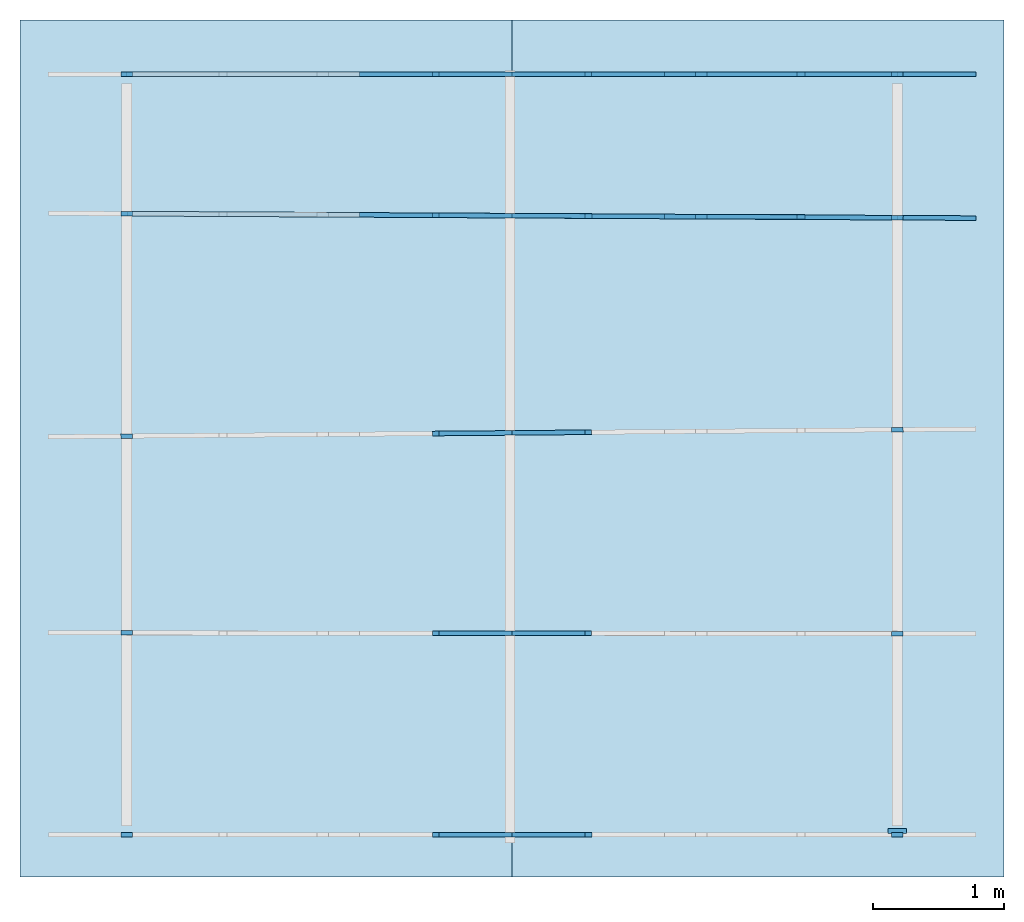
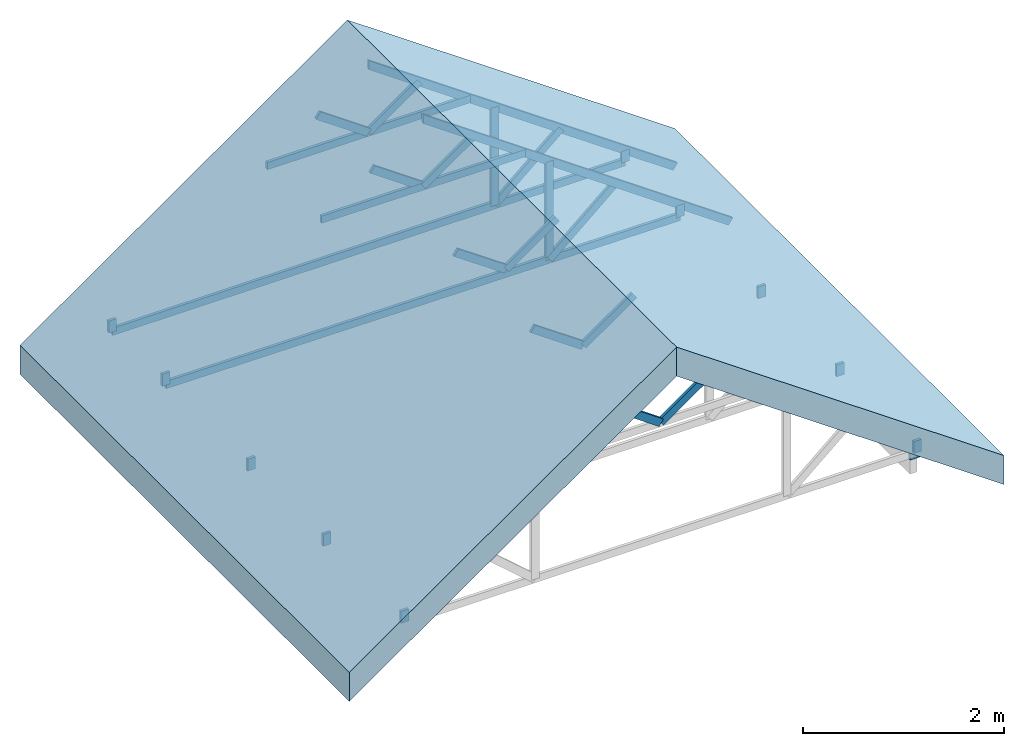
# One storey, part 2 of 2: 30 members, 2 slabs, 1 beam, 6 elements without a shape of their own.
"""IFC2X3 building model written with IfcOpenShell, lengths in metres."""

from ifc_helpers import new_model, entity, si_unit, converted_unit, derived_unit, direction, frame, frame_2d, origin, origin_2d_with_axis, place, context, subcontext, project, spatial, rectangle, extrude, clip, halfspace, source, transform, mapped, material, material_list, layer, layer_set, type_object, type_shapes, element, aggregate, save


model = new_model("IFC2X3")

# Units and contexts
model_context = context("Model", 3, precision=1e-05, world=origin(), true_north=direction((6.123233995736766e-17, 1.0)))
body_context = subcontext(model_context, "Body", "Model", "MODEL_VIEW")
ifc_project = project(units=[si_unit("LENGTHUNIT", "METRE"), si_unit("AREAUNIT", "SQUARE_METRE"), converted_unit("PLANEANGLEUNIT", "DEGREE", entity("IfcPlaneAngleMeasure", 0.017453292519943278), si_unit("PLANEANGLEUNIT", "RADIAN"), dimensions=[0, 0, 0, 0, 0, 0, 0]), derived_unit("THERMALTRANSMITTANCEUNIT", [(si_unit("MASSUNIT", "GRAM", prefix="KILO"), 1), (si_unit("THERMODYNAMICTEMPERATUREUNIT", "KELVIN"), -1), (si_unit("TIMEUNIT", "SECOND"), -3)])], contexts=[model_context])

# Site, building, storey
site_placement = place(None, origin())
site = spatial("IfcSite", under=ifc_project, at=site_placement, Name="Default", CompositionType="ELEMENT")
building_placement = place(site_placement, origin())
building = spatial("IfcBuilding", under=site, at=building_placement, CompositionType="ELEMENT")
storey_placement = place(building_placement, frame((0.0, 0.0, 5.799999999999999)))
storey = spatial("IfcBuildingStorey", under=building, at=storey_placement, Name="Roof", CompositionType="ELEMENT", Elevation=5.799999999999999)

# Beam
ifc_material_1 = material(Name="Softwood, Lumber")
beam_type = type_object("IfcBeamType", Name="M_Truss_Wood Web:35x90", PredefinedType="BEAM")
beam_placement = place(storey_placement, frame((3.3982259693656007, -2.1155999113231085, 0.0)))
element("IfcBeam", 1, at=beam_placement, inside=storey, type_object=beam_type, material=ifc_material_1, Name="M_Truss_Wood Web:35x90", ObjectType="M_Truss_Wood Web:35x90", context=body_context, shape_type="SweptSolid", body=[
    extrude(rectangle(XDim=0.09000000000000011, YDim=0.03499999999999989, at=origin_2d_with_axis()), frame((0.0, 0.0, -0.045000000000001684), z_axis=(1.0, 0.0, 0.0), x_axis=(0.0, 0.0, -1.0)), (0.0, 0.0, 1.0), 0.13970000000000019),
])

# Assembly, members
assembly_1_placement = place(storey_placement, origin())
assembly_1 = element("IfcElementAssembly", 2, at=assembly_1_placement, inside=storey, Name="M_Truss_Common Truss Attic Room 1L+1R_1B:W35_TCH90_VW90_DW90_BCH90", ObjectType="M_Truss_Common Truss Attic Room 1L+1R_1B:W35_TCH90_VW90_DW90_BCH90", AssemblyPlace="NOTDEFINED", PredefinedType="TRUSS")
ifc_material_2 = material(Name="Timber - C20")
member_type_1 = type_object("IfcMemberType", Name="M_Truss_Wood Web:35x90", PredefinedType="BRACE", material=ifc_material_2)
shared_shape_1 = source(origin(), body_context, "Body", "SweptSolid", [
    extrude(rectangle(XDim=0.14506514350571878, YDim=0.035, at=origin_2d_with_axis()), frame((0.0, 0.0, -0.045)), (0.0, 0.0, 1.0), 0.08999999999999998),
])
type_shapes(member_type_1, [shared_shape_1])
member_1_placement = place(assembly_1_placement, frame((-2.421924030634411, 0.9020517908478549, 0.07253257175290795), z_axis=(0.999965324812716, 0.00832761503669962, 0.0), x_axis=(0.0, 0.0, 1.0)))
member_1 = element("IfcMember", 3, at=member_1_placement, type_object=member_type_1, material=ifc_material_2, Name="M_Truss_Wood Web:35x90", ObjectType="M_Truss_Wood Web:35x90", context=body_context, shape_type="MappedRepresentation", body=[
    mapped(shared_shape_1, transform((0.0, 0.0, 0.0), scale=1.0)),
])
member_2_placement = place(assembly_1_placement, frame((3.468075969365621, 0.9511031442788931, 0.07253257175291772), z_axis=(0.999965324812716, 0.00832761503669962, 0.0), x_axis=(0.0, 0.0, 1.0)))
member_2 = element("IfcMember", 4, at=member_2_placement, type_object=member_type_1, material=ifc_material_2, Name="M_Truss_Wood Web:35x90", ObjectType="M_Truss_Wood Web:35x90", context=body_context, shape_type="MappedRepresentation", body=[
    mapped(shared_shape_1, transform((0.0, 0.0, 0.0), scale=1.0)),
])

assembly_2_placement = place(storey_placement, origin())
assembly_2 = element("IfcElementAssembly", 5, at=assembly_2_placement, inside=storey, Name="M_Truss_Common Truss Attic Room 1L+1R_1B:W35_TCH90_VW90_DW90_BCH90", ObjectType="M_Truss_Common Truss Attic Room 1L+1R_1B:W35_TCH90_VW90_DW90_BCH90", AssemblyPlace="NOTDEFINED", PredefinedType="TRUSS")
member_3_placement = place(assembly_2_placement, frame((-2.420924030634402, 2.6020517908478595, 0.07253257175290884), z_axis=(0.9999861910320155, -0.0052552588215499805, 0.0), x_axis=(0.0, 0.0, 1.0)))
member_3 = element("IfcMember", 6, at=member_3_placement, type_object=member_type_1, material=ifc_material_2, Name="M_Truss_Wood Web:35x90", ObjectType="M_Truss_Wood Web:35x90", context=body_context, shape_type="MappedRepresentation", body=[
    mapped(shared_shape_1, transform((0.0, 0.0, 0.0), scale=1.0)),
])
member_4_placement = place(assembly_2_placement, frame((3.468075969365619, 2.5711031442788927, 0.07253257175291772), z_axis=(0.9999861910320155, -0.0052552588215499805, 0.0), x_axis=(0.0, 0.0, 1.0)))
member_4 = element("IfcMember", 7, at=member_4_placement, type_object=member_type_1, material=ifc_material_2, Name="M_Truss_Wood Web:35x90", ObjectType="M_Truss_Wood Web:35x90", context=body_context, shape_type="MappedRepresentation", body=[
    mapped(shared_shape_1, transform((0.0, 0.0, 0.0), scale=1.0)),
])

assembly_3_placement = place(storey_placement, origin())
assembly_3 = element("IfcElementAssembly", 8, at=assembly_3_placement, inside=storey, Name="M_Truss_Common Truss Attic Room 1L+1R_1B:W35_TCH90_VW90_DW90_BCH90", ObjectType="M_Truss_Common Truss Attic Room 1L+1R_1B:W35_TCH90_VW90_DW90_BCH90", AssemblyPlace="NOTDEFINED", PredefinedType="TRUSS")
member_5_placement = place(assembly_3_placement, frame((-2.4219240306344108, 3.6670517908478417, 0.07253257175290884), z_axis=(1.0, 0.0, 0.0), x_axis=(0.0, 0.0, 1.0)))
member_5 = element("IfcMember", 9, at=member_5_placement, type_object=member_type_1, material=ifc_material_2, Name="M_Truss_Wood Web:35x90", ObjectType="M_Truss_Wood Web:35x90", context=body_context, shape_type="MappedRepresentation", body=[
    mapped(shared_shape_1, transform((0.0, 0.0, 0.0), scale=1.0)),
])
member_6_placement = place(assembly_3_placement, frame((3.4680759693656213, 3.6670517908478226, 0.07253257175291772), z_axis=(1.0, 0.0, 0.0), x_axis=(0.0, 0.0, 1.0)))
member_6 = element("IfcMember", 10, at=member_6_placement, type_object=member_type_1, material=ifc_material_2, Name="M_Truss_Wood Web:35x90", ObjectType="M_Truss_Wood Web:35x90", context=body_context, shape_type="MappedRepresentation", body=[
    mapped(shared_shape_1, transform((0.0, 0.0, 0.0), scale=1.0)),
])

assembly_4_placement = place(storey_placement, origin())
assembly_4 = element("IfcElementAssembly", 11, at=assembly_4_placement, inside=storey, Name="M_Truss_Common Truss Attic Room 1L+1R_1B:W35_TCH90_VW90_DW90_BCH90", ObjectType="M_Truss_Common Truss Attic Room 1L+1R_1B:W35_TCH90_VW90_DW90_BCH90", AssemblyPlace="NOTDEFINED", PredefinedType="TRUSS")
member_7_placement = place(assembly_4_placement, frame((-2.4209240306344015, -2.14574991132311, 0.07253257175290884), z_axis=(1.0, 0.0, 0.0), x_axis=(0.0, 0.0, 1.0)))
member_7 = element("IfcMember", 12, at=member_7_placement, type_object=member_type_1, material=ifc_material_2, Name="M_Truss_Wood Web:35x90", ObjectType="M_Truss_Wood Web:35x90", context=body_context, shape_type="MappedRepresentation", body=[
    mapped(shared_shape_1, transform((0.0, 0.0, 0.0), scale=1.0)),
])
member_8_placement = place(assembly_4_placement, frame((3.468075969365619, -2.1457499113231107, 0.07253257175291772), z_axis=(1.0, 0.0, 0.0), x_axis=(0.0, 0.0, 1.0)))
member_8 = element("IfcMember", 13, at=member_8_placement, type_object=member_type_1, material=ifc_material_2, Name="M_Truss_Wood Web:35x90", ObjectType="M_Truss_Wood Web:35x90", context=body_context, shape_type="MappedRepresentation", body=[
    mapped(shared_shape_1, transform((0.0, 0.0, 0.0), scale=1.0)),
])

assembly_5_placement = place(storey_placement, origin())
assembly_5 = element("IfcElementAssembly", 14, at=assembly_5_placement, inside=storey, Name="M_Truss_Common Truss Attic Room 1L+1R_1B:W35_TCH90_VW90_DW90_BCH90", ObjectType="M_Truss_Common Truss Attic Room 1L+1R_1B:W35_TCH90_VW90_DW90_BCH90", AssemblyPlace="NOTDEFINED", PredefinedType="TRUSS")
member_9_placement = place(assembly_5_placement, frame((-2.421924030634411, -0.6017499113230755, 0.07253257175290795), z_axis=(1.0, 0.0, 0.0), x_axis=(0.0, 0.0, 1.0)))
member_9 = element("IfcMember", 15, at=member_9_placement, type_object=member_type_1, material=ifc_material_2, Name="M_Truss_Wood Web:35x90", ObjectType="M_Truss_Wood Web:35x90", context=body_context, shape_type="MappedRepresentation", body=[
    mapped(shared_shape_1, transform((0.0, 0.0, 0.0), scale=1.0)),
])
member_10_placement = place(assembly_5_placement, frame((3.468075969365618, -0.6088968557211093, 0.07253257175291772), z_axis=(1.0, 0.0, 0.0), x_axis=(0.0, 0.0, 1.0)))
member_10 = element("IfcMember", 16, at=member_10_placement, type_object=member_type_1, material=ifc_material_2, Name="M_Truss_Wood Web:35x90", ObjectType="M_Truss_Wood Web:35x90", context=body_context, shape_type="MappedRepresentation", body=[
    mapped(shared_shape_1, transform((0.0, 0.0, 0.0), scale=1.0)),
])

# Member
ifc_material_3 = material(Name="<Unnamed>")
ifc_material_list = material_list([ifc_material_3, ifc_material_2])
member_type_2 = type_object("IfcMemberType", Name="M_Truss_Wood Chord:35x90", PredefinedType="CHORD", material=ifc_material_list)
shared_shape_2 = source(origin(), body_context, "Body", "SweptSolid", [
    clip(extrude(rectangle(XDim=0.09000000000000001, YDim=0.03500000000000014, at=frame_2d((-6.557254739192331e-16, 2.723515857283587e-16), x_axis=(1.0, 0.0))), frame((0.4977653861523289, 2.586713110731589, 8.024927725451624), z_axis=(0.8191407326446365, -0.004304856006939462, -0.573576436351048), x_axis=(-0.5735685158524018, 0.003014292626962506, -0.8191520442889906)), (0.0, 0.0, 1.0), 4.327085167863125), halfspace(frame((0.5235759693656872, 2.5865774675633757, 8.061789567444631), z_axis=(-0.9999861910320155, 0.005255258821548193, 0.0), x_axis=(0.005255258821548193, 0.9999861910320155, 0.0)), False)),
])
type_shapes(member_type_2, [shared_shape_2])
member_11_placement = place(assembly_2_placement, frame((0.0, 0.0, -5.799999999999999)))
member_11 = element("IfcMember", 17, at=member_11_placement, type_object=member_type_2, material=ifc_material_2, Name="M_Truss_Wood Chord:35x90", ObjectType="M_Truss_Wood Chord:35x90", context=body_context, shape_type="MappedRepresentation", body=[
    mapped(shared_shape_2, transform((0.0, 0.0, 0.0), scale=1.0)),
])

member_type_3 = type_object("IfcMemberType", Name="M_Truss_Wood Web:35x90", PredefinedType="BRACE", material=ifc_material_2)
shared_shape_3 = source(origin(), body_context, "Body", "SweptSolid", [
    extrude(rectangle(XDim=1.194032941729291, YDim=0.035, at=origin_2d_with_axis()), frame((0.0, 0.0, -0.045)), (0.0, 0.0, 1.0), 0.08999999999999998),
])
type_shapes(member_type_3, [shared_shape_3])
member_12_placement = place(assembly_2_placement, frame((1.9700153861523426, 2.578975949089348, 0.5970164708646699), z_axis=(0.9999861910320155, -0.0052552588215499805, 0.0), x_axis=(0.0, 0.0, 1.0)))
member_12 = element("IfcMember", 18, at=member_12_placement, type_object=member_type_3, material=ifc_material_2, Name="M_Truss_Wood Web:35x90", ObjectType="M_Truss_Wood Web:35x90", context=body_context, shape_type="MappedRepresentation", body=[
    mapped(shared_shape_3, transform((0.0, 0.0, 0.0), scale=1.0)),
])

member_type_4 = type_object("IfcMemberType", Name="M_Truss_Wood Chord:35x90", PredefinedType="CHORD", material=ifc_material_list)
shared_shape_4 = source(origin(), body_context, "Body", "SweptSolid", [
    clip(extrude(rectangle(XDim=0.08999999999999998, YDim=0.03499999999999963, at=frame_2d((0.0, -4.163336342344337e-17), x_axis=(0.0, 1.0))), frame((0.49726502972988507, 3.667051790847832, 8.025249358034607), z_axis=(0.8191520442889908, 0.0, -0.5735764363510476), x_axis=(0.0, 1.0, 0.0)), (0.0, 0.0, 1.0), 4.327645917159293), halfspace(frame((0.5230759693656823, 3.667051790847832, 8.062111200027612), z_axis=(-1.0, 0.0, 0.0), x_axis=(0.0, 1.0, 0.0)), False)),
])
type_shapes(member_type_4, [shared_shape_4])
member_13_placement = place(assembly_3_placement, frame((0.0, 0.0, -5.799999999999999)))
member_13 = element("IfcMember", 19, at=member_13_placement, type_object=member_type_4, material=ifc_material_2, Name="M_Truss_Wood Chord:35x90", ObjectType="M_Truss_Wood Chord:35x90", context=body_context, shape_type="MappedRepresentation", body=[
    mapped(shared_shape_4, transform((0.0, 0.0, 0.0), scale=1.0)),
])

member_type_5 = type_object("IfcMemberType", Name="M_Truss_Wood Web:35x90", PredefinedType="BRACE", material=ifc_material_2)
shared_shape_5 = source(origin(), body_context, "Body", "SweptSolid", [
    extrude(rectangle(XDim=1.1941937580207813, YDim=0.035, at=origin_2d_with_axis()), frame((0.0, 0.0, -0.045)), (0.0, 0.0, 1.0), 0.08999999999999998),
])
type_shapes(member_type_5, [shared_shape_5])
member_14_placement = place(assembly_3_placement, frame((1.9697650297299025, 3.6670517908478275, 0.5970968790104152), z_axis=(1.0, 0.0, 0.0), x_axis=(0.0, 0.0, 1.0)))
member_14 = element("IfcMember", 20, at=member_14_placement, type_object=member_type_5, material=ifc_material_2, Name="M_Truss_Wood Web:35x90", ObjectType="M_Truss_Wood Web:35x90", context=body_context, shape_type="MappedRepresentation", body=[
    mapped(shared_shape_5, transform((0.0, 0.0, 0.0), scale=1.0)),
])

member_type_6 = type_object("IfcMemberType", Name="M_Truss_Wood Web:35x90", PredefinedType="BRACE", material=ifc_material_2)
shared_shape_6 = source(origin(), body_context, "Body", "SweptSolid", [
    extrude(rectangle(XDim=0.7120465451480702, YDim=0.035, at=origin_2d_with_axis()), frame((0.0, 0.0, -0.045)), (0.0, 0.0, 1.0), 0.08999999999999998),
])
type_shapes(member_type_6, [shared_shape_6])
member_15_placement = place(assembly_4_placement, frame((0.23193877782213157, -2.1457499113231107, 1.594206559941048), z_axis=(-0.5735764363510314, 0.0, -0.8191520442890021), x_axis=(0.8191520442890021, 0.0, -0.5735764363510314)))
member_15 = element("IfcMember", 21, at=member_15_placement, type_object=member_type_6, material=ifc_material_2, Name="M_Truss_Wood Web:35x90", ObjectType="M_Truss_Wood Web:35x90", context=body_context, shape_type="MappedRepresentation", body=[
    mapped(shared_shape_6, transform((0.0, 0.0, 0.0), scale=1.0)),
])

member_type_7 = type_object("IfcMemberType", Name="M_Truss_Wood Web:35x90", PredefinedType="BRACE", material=ifc_material_2)
shared_shape_7 = source(origin(), body_context, "Body", "SweptSolid", [
    extrude(rectangle(XDim=0.7120465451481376, YDim=0.035, at=origin_2d_with_axis()), frame((0.0, 0.0, -0.045)), (0.0, 0.0, 1.0), 0.08999999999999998),
])
type_shapes(member_type_7, [shared_shape_7])
member_16_placement = place(assembly_4_placement, frame((0.8152131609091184, -2.145749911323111, 1.5942065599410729), z_axis=(0.5735764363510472, 0.0, -0.8191520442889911), x_axis=(0.8191520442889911, 0.0, 0.5735764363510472)))
member_16 = element("IfcMember", 22, at=member_16_placement, type_object=member_type_7, material=ifc_material_2, Name="M_Truss_Wood Web:35x90", ObjectType="M_Truss_Wood Web:35x90", context=body_context, shape_type="MappedRepresentation", body=[
    mapped(shared_shape_7, transform((0.0, 0.0, 0.0), scale=1.0)),
])

aggregate(assembly_4, [member_7, member_8, member_15, member_16])

member_type_8 = type_object("IfcMemberType", Name="M_Truss_Wood Web:35x90", PredefinedType="BRACE", material=ifc_material_2)
shared_shape_8 = source(origin(), body_context, "Body", "SweptSolid", [
    extrude(rectangle(XDim=1.0085236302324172, YDim=0.035, at=origin_2d_with_axis()), frame((0.0, 0.0, -0.045)), (0.0, 0.0, 1.0), 0.08999999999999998),
])
type_shapes(member_type_8, [shared_shape_8])
member_17_placement = place(assembly_3_placement, frame((2.3507954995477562, 3.6670517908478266, 0.330296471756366), z_axis=(0.6550098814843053, 0.0, -0.7556203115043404), x_axis=(0.7556203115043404, 0.0, 0.6550098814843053)))
member_17 = element("IfcMember", 23, at=member_17_placement, type_object=member_type_8, material=ifc_material_2, Name="M_Truss_Wood Web:35x90", ObjectType="M_Truss_Wood Web:35x90", context=body_context, shape_type="MappedRepresentation", body=[
    mapped(shared_shape_8, transform((0.0, 0.0, 0.0), scale=1.0)),
])

member_type_9 = type_object("IfcMemberType", Name="M_Truss_Wood Chord:35x90", PredefinedType="CHORD", material=ifc_material_2)
shared_shape_9 = source(origin(), body_context, "Body", "SweptSolid", [
    extrude(rectangle(XDim=5.8900000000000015, YDim=0.035, at=origin_2d_with_axis()), frame((0.0, 0.0, -0.04500000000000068)), (0.0, 0.0, 1.0), 0.09),
])
type_shapes(member_type_9, [shared_shape_9])
member_18_placement = place(assembly_3_placement, frame((0.5230759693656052, 3.667051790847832, 0.0)))
member_18 = element("IfcMember", 24, at=member_18_placement, type_object=member_type_9, material=ifc_material_2, Name="M_Truss_Wood Chord:35x90", ObjectType="M_Truss_Wood Chord:35x90", context=body_context, shape_type="MappedRepresentation", body=[
    mapped(shared_shape_9, transform((0.0, 0.0, 0.0), scale=1.0)),
])

member_type_10 = type_object("IfcMemberType", Name="M_Truss_Wood Chord:35x90", PredefinedType="CHORD", material=ifc_material_2)
shared_shape_10 = source(origin(), body_context, "Body", "SweptSolid", [
    extrude(rectangle(XDim=2.334097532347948, YDim=0.035, at=origin_2d_with_axis()), frame((0.0, 0.0, -0.04500000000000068)), (0.0, 0.0, 1.0), 0.09),
])
type_shapes(member_type_10, [shared_shape_10])
member_19_placement = place(assembly_3_placement, frame((0.5230759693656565, 3.667051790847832, 1.3899999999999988)))
member_19 = element("IfcMember", 25, at=member_19_placement, type_object=member_type_10, material=ifc_material_2, Name="M_Truss_Wood Chord:35x90", ObjectType="M_Truss_Wood Chord:35x90", context=body_context, shape_type="MappedRepresentation", body=[
    mapped(shared_shape_10, transform((0.0, 0.0, 0.0), scale=1.0)),
])

member_type_11 = type_object("IfcMemberType", Name="M_Truss_Wood Web:35x90", PredefinedType="BRACE", material=ifc_material_2)
shared_shape_11 = source(origin(), body_context, "Body", "SweptSolid", [
    extrude(rectangle(XDim=0.7123517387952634, YDim=0.035, at=origin_2d_with_axis()), frame((0.0, 0.0, -0.045)), (0.0, 0.0, 1.0), 0.08999999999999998),
])
type_shapes(member_type_11, [shared_shape_11])
member_20_placement = place(assembly_3_placement, frame((0.23131377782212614, 3.6670517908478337, 1.5942940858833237), z_axis=(-0.5735764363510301, 0.0, -0.8191520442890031), x_axis=(0.8191520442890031, 0.0, -0.5735764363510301)))
member_20 = element("IfcMember", 26, at=member_20_placement, type_object=member_type_11, material=ifc_material_2, Name="M_Truss_Wood Web:35x90", ObjectType="M_Truss_Wood Web:35x90", context=body_context, shape_type="MappedRepresentation", body=[
    mapped(shared_shape_11, transform((0.0, 0.0, 0.0), scale=1.0)),
])

member_type_12 = type_object("IfcMemberType", Name="M_Truss_Wood Web:35x90", PredefinedType="BRACE", material=ifc_material_2)
shared_shape_12 = source(origin(), body_context, "Body", "SweptSolid", [
    extrude(rectangle(XDim=0.712351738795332, YDim=0.035, at=origin_2d_with_axis()), frame((0.0, 0.0, -0.045)), (0.0, 0.0, 1.0), 0.08999999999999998),
])
type_shapes(member_type_12, [shared_shape_12])
member_21_placement = place(assembly_3_placement, frame((0.814838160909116, 3.667051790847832, 1.5942940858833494), z_axis=(0.5735764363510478, 0.0, -0.8191520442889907), x_axis=(0.8191520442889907, 0.0, 0.5735764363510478)))
member_21 = element("IfcMember", 27, at=member_21_placement, type_object=member_type_12, material=ifc_material_2, Name="M_Truss_Wood Web:35x90", ObjectType="M_Truss_Wood Web:35x90", context=body_context, shape_type="MappedRepresentation", body=[
    mapped(shared_shape_12, transform((0.0, 0.0, 0.0), scale=1.0)),
])

aggregate(assembly_3, [member_13, member_5, member_6, member_14, member_17, member_18, member_19, member_20, member_21])

member_type_13 = type_object("IfcMemberType", Name="M_Truss_Wood Web:35x90", PredefinedType="BRACE", material=ifc_material_2)
shared_shape_13 = source(origin(), body_context, "Body", "SweptSolid", [
    extrude(rectangle(XDim=1.0083841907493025, YDim=0.035, at=origin_2d_with_axis()), frame((0.0, 0.0, -0.045)), (0.0, 0.0, 1.0), 0.08999999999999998),
])
type_shapes(member_type_13, [shared_shape_13])
member_22_placement = place(assembly_2_placement, frame((2.3509831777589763, 2.57697383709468, 0.3302562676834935), z_axis=(0.6550155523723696, 0.0, -0.7556153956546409), x_axis=(0.7556153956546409, 0.0, 0.6550155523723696)))
member_22 = element("IfcMember", 28, at=member_22_placement, type_object=member_type_13, material=ifc_material_2, Name="M_Truss_Wood Web:35x90", ObjectType="M_Truss_Wood Web:35x90", context=body_context, shape_type="MappedRepresentation", body=[
    mapped(shared_shape_13, transform((0.0, 0.0, 0.0), scale=1.0)),
])

member_type_14 = type_object("IfcMemberType", Name="M_Truss_Wood Chord:35x90", PredefinedType="CHORD", material=ifc_material_2)
shared_shape_14 = source(origin(), body_context, "Body", "SweptSolid", [
    extrude(rectangle(XDim=5.889081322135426, YDim=0.035, at=origin_2d_with_axis()), frame((0.0, 0.0, -0.04500000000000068)), (0.0, 0.0, 1.0), 0.09),
])
type_shapes(member_type_14, [shared_shape_14])
member_23_placement = place(assembly_2_placement, frame((0.5235759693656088, 2.5865774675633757, 0.0), z_axis=(0.0, 0.0, 1.0), x_axis=(0.9999861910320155, -0.005255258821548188, 0.0)))
member_23 = element("IfcMember", 29, at=member_23_placement, type_object=member_type_14, material=ifc_material_2, Name="M_Truss_Wood Chord:35x90", ObjectType="M_Truss_Wood Chord:35x90", context=body_context, shape_type="MappedRepresentation", body=[
    mapped(shared_shape_14, transform((0.0, 0.0, 0.0), scale=1.0)),
])

member_type_15 = type_object("IfcMemberType", Name="M_Truss_Wood Chord:35x90", PredefinedType="CHORD", material=ifc_material_2)
shared_shape_15 = source(origin(), body_context, "Body", "SweptSolid", [
    extrude(rectangle(XDim=2.3331788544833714, YDim=0.035, at=origin_2d_with_axis()), frame((0.0, 0.0, -0.04500000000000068)), (0.0, 0.0, 1.0), 0.09),
])
type_shapes(member_type_15, [shared_shape_15])
member_24_placement = place(assembly_2_placement, frame((0.5235759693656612, 2.5865774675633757, 1.3900000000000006), z_axis=(0.0, 0.0, 1.0), x_axis=(0.9999861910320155, -0.005255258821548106, 0.0)))
member_24 = element("IfcMember", 30, at=member_24_placement, type_object=member_type_15, material=ifc_material_2, Name="M_Truss_Wood Chord:35x90", ObjectType="M_Truss_Wood Chord:35x90", context=body_context, shape_type="MappedRepresentation", body=[
    mapped(shared_shape_15, transform((0.0, 0.0, 0.0), scale=1.0)),
])

member_type_16 = type_object("IfcMemberType", Name="M_Truss_Wood Web:35x90", PredefinedType="BRACE", material=ifc_material_2)
shared_shape_16 = source(origin(), body_context, "Body", "SweptSolid", [
    extrude(rectangle(XDim=0.7120713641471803, YDim=0.035, at=origin_2d_with_axis()), frame((0.0, 0.0, -0.045)), (0.0, 0.0, 1.0), 0.08999999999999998),
])
type_shapes(member_type_16, [shared_shape_16])
member_25_placement = place(assembly_2_placement, frame((0.2319326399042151, 2.588110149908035, 1.5942136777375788), z_axis=(-0.5735628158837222, 0.0020226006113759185, -0.8191590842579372), x_axis=(0.819153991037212, -0.0028886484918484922, -0.5735663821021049)))
member_25 = element("IfcMember", 31, at=member_25_placement, type_object=member_type_16, material=ifc_material_2, Name="M_Truss_Wood Web:35x90", ObjectType="M_Truss_Wood Web:35x90", context=body_context, shape_type="MappedRepresentation", body=[
    mapped(shared_shape_16, transform((0.0, 0.0, 0.0), scale=1.0)),
])

member_type_17 = type_object("IfcMemberType", Name="M_Truss_Wood Web:35x90", PredefinedType="BRACE", material=ifc_material_2)
shared_shape_17 = source(origin(), body_context, "Body", "SweptSolid", [
    extrude(rectangle(XDim=0.7120713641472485, YDim=0.035, at=origin_2d_with_axis()), frame((0.0, 0.0, -0.045)), (0.0, 0.0, 1.0), 0.08999999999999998),
])
type_shapes(member_type_17, [shared_shape_17])
member_26_placement = place(assembly_2_placement, frame((0.8152192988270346, 2.5850447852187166, 1.5942136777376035), z_axis=(0.5735628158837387, -0.002022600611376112, -0.8191590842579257), x_axis=(0.8191539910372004, -0.0028886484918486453, 0.5735663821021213)))
member_26 = element("IfcMember", 32, at=member_26_placement, type_object=member_type_17, material=ifc_material_2, Name="M_Truss_Wood Web:35x90", ObjectType="M_Truss_Wood Web:35x90", context=body_context, shape_type="MappedRepresentation", body=[
    mapped(shared_shape_17, transform((0.0, 0.0, 0.0), scale=1.0)),
])

aggregate(assembly_2, [member_11, member_3, member_4, member_12, member_22, member_23, member_24, member_25, member_26])

member_type_18 = type_object("IfcMemberType", Name="M_Truss_Wood Web:35x90", PredefinedType="BRACE", material=ifc_material_2)
shared_shape_18 = source(origin(), body_context, "Body", "SweptSolid", [
    extrude(rectangle(XDim=0.7124140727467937, YDim=0.035, at=origin_2d_with_axis()), frame((0.0, 0.0, -0.045)), (0.0, 0.0, 1.0), 0.08999999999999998),
])
type_shapes(member_type_18, [shared_shape_18])
member_27_placement = place(assembly_1_placement, frame((0.2312983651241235, 0.9241475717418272, 1.5943119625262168), z_axis=(-0.573556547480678, -0.0047765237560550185, -0.819152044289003), x_axis=(0.8191236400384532, 0.006821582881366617, -0.5735764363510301)))
member_27 = element("IfcMember", 33, at=member_27_placement, type_object=member_type_18, material=ifc_material_2, Name="M_Truss_Wood Web:35x90", ObjectType="M_Truss_Wood Web:35x90", context=body_context, shape_type="MappedRepresentation", body=[
    mapped(shared_shape_18, transform((0.0, 0.0, 0.0), scale=1.0)),
])

member_type_19 = type_object("IfcMemberType", Name="M_Truss_Wood Web:35x90", PredefinedType="BRACE", material=ifc_material_2)
shared_shape_19 = source(origin(), body_context, "Body", "SweptSolid", [
    extrude(rectangle(XDim=0.7124140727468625, YDim=0.035, at=origin_2d_with_axis()), frame((0.0, 0.0, -0.045)), (0.0, 0.0, 1.0), 0.08999999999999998),
])
type_shapes(member_type_19, [shared_shape_19])
member_28_placement = place(assembly_1_placement, frame((0.8148535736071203, 0.9290073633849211, 1.594311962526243), z_axis=(0.5735565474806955, 0.004776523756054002, -0.8191520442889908), x_axis=(0.819123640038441, 0.006821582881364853, 0.5735764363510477)))
member_28 = element("IfcMember", 34, at=member_28_placement, type_object=member_type_19, material=ifc_material_2, Name="M_Truss_Wood Web:35x90", ObjectType="M_Truss_Wood Web:35x90", context=body_context, shape_type="MappedRepresentation", body=[
    mapped(shared_shape_19, transform((0.0, 0.0, 0.0), scale=1.0)),
])

aggregate(assembly_1, [member_1, member_2, member_27, member_28])

member_type_20 = type_object("IfcMemberType", Name="M_Truss_Wood Web:35x90", PredefinedType="BRACE", material=ifc_material_2)
shared_shape_20 = source(origin(), body_context, "Body", "SweptSolid", [
    extrude(rectangle(XDim=0.7123530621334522, YDim=0.035, at=origin_2d_with_axis()), frame((0.0, 0.0, -0.045)), (0.0, 0.0, 1.0), 0.08999999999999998),
])
type_shapes(member_type_20, [shared_shape_20])
member_29_placement = place(assembly_5_placement, frame((0.23131345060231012, -0.6049693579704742, 1.5942944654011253), z_axis=(-0.5735761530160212, 0.0, -0.8191522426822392), x_axis=(0.8191522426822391, 0.0, -0.573576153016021)))
member_29 = element("IfcMember", 35, at=member_29_placement, type_object=member_type_20, material=ifc_material_2, Name="M_Truss_Wood Web:35x90", ObjectType="M_Truss_Wood Web:35x90", context=body_context, shape_type="MappedRepresentation", body=[
    mapped(shared_shape_20, transform((0.0, 0.0, 0.0), scale=1.0)),
])

member_type_21 = type_object("IfcMemberType", Name="M_Truss_Wood Web:35x90", PredefinedType="BRACE", material=ifc_material_2)
shared_shape_21 = source(origin(), body_context, "Body", "SweptSolid", [
    extrude(rectangle(XDim=0.7123530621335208, YDim=0.035, at=origin_2d_with_axis()), frame((0.0, 0.0, -0.045)), (0.0, 0.0, 1.0), 0.08999999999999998),
])
type_shapes(member_type_21, [shared_shape_21])
member_30_placement = place(assembly_5_placement, frame((0.8148384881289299, -0.6056774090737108, 1.594294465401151), z_axis=(0.5735761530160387, 0.0, -0.8191522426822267), x_axis=(0.8191522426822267, 0.0, 0.5735761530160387)))
member_30 = element("IfcMember", 36, at=member_30_placement, type_object=member_type_21, material=ifc_material_2, Name="M_Truss_Wood Web:35x90", ObjectType="M_Truss_Wood Web:35x90", context=body_context, shape_type="MappedRepresentation", body=[
    mapped(shared_shape_21, transform((0.0, 0.0, 0.0), scale=1.0)),
])

aggregate(assembly_5, [member_9, member_10, member_29, member_30])

# Roof, slabs
ifc_material_4 = material(Name="Ghiaia")
ifc_layer_1 = layer(ifc_material_4, 0.05)
ifc_material_5 = material(Name="bituminous waterproof sheet")
ifc_layer_2 = layer(ifc_material_5, 0.007999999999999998)
ifc_material_6 = material(Name="wood cement panel")
ifc_layer_3 = layer(ifc_material_6, 0.022)
ifc_material_7 = material(Name="wood fiber")
ifc_layer_4 = layer(ifc_material_7, 0.18)
ifc_material_8 = material(Name="vapor barrier")
ifc_layer_5 = layer(ifc_material_8, 0.0035)
ifc_material_9 = material(Name="osb panel")
ifc_layer_6 = layer(ifc_material_9, 0.025)
ifc_layer_set = layer_set([ifc_layer_1, ifc_layer_2, ifc_layer_3, ifc_layer_4, ifc_layer_5, ifc_layer_6], Name="Basic Roof:Latero Cementizio - 27 cm")
roof_placement = place(storey_placement, frame((-3.236924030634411, -2.4679482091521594, -0.4901452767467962)))
roof = element("IfcRoof", 37, at=roof_placement, inside=storey, material=ifc_layer_set, Name="Basic Roof:Latero Cementizio - 27 cm", ObjectType="Basic Roof:Latero Cementizio - 27 cm", ShapeType="NOTDEFINED")
type_product = type_object("IfcTypeProduct", Name="Basic Roof:Latero Cementizio - 27 cm")
slab_1_placement = place(roof_placement, origin())
slab_1 = element("IfcSlab", 38, at=slab_1_placement, type_object=type_product, material=ifc_layer_set, Name="Basic Roof:Latero Cementizio - 27 cm", ObjectType="Basic Roof:Latero Cementizio - 27 cm", PredefinedType="ROOF", context=body_context, shape_type="SweptSolid", body=[
    extrude(rectangle(XDim=6.550000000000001, YDim=4.590112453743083, at=frame_2d((0.0, 0.0), x_axis=(0.0, 1.0))), frame((1.880000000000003, 3.2750000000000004, 1.3163901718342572), z_axis=(-0.5735764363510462, 0.0, 0.8191520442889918), x_axis=(0.8191520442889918, 0.0, 0.5735764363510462)), (0.5735764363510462, 0.0, 0.8191520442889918), 0.35219346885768),
])
slab_2_placement = place(roof_placement, origin())
slab_2 = element("IfcSlab", 39, at=slab_2_placement, type_object=type_product, material=ifc_layer_set, Name="Basic Roof:Latero Cementizio - 27 cm", ObjectType="Basic Roof:Latero Cementizio - 27 cm", PredefinedType="ROOF", context=body_context, shape_type="SweptSolid", body=[
    extrude(rectangle(XDim=4.590112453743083, YDim=6.550000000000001, at=origin_2d_with_axis()), frame((5.640000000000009, 3.2750000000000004, 1.3163901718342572), z_axis=(0.5735764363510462, 0.0, 0.8191520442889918), x_axis=(0.8191520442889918, 0.0, -0.5735764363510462)), (-0.5735764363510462, 0.0, 0.8191520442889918), 0.35219346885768),
])
aggregate(roof, [slab_1, slab_2])

save(model, "model.ifc")
